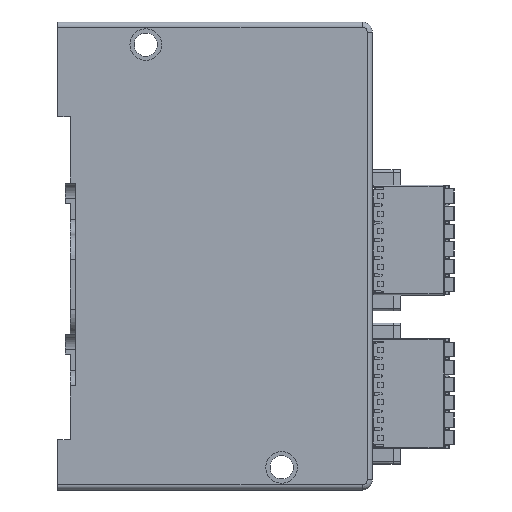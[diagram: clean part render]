
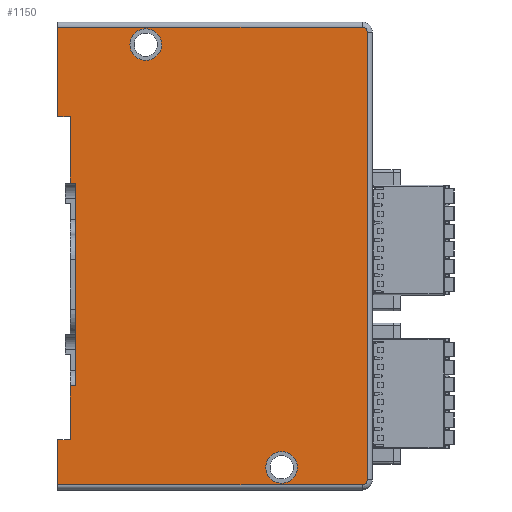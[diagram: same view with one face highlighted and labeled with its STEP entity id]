
A CAD part, left-side view. The second image highlights one B-rep face of the part: STEP entity #1150.
In plain terms, the highlighted planar face has unit normal (-1, 0, 0).
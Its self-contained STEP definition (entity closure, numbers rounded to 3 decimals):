
#1150=ADVANCED_FACE('',(#12738,#12739,#12740),#12737,.T.);
#12737=PLANE('',#24087);
#12738=FACE_OUTER_BOUND('',#24088,.T.);
#12739=FACE_BOUND('',#24089,.T.);
#12740=FACE_BOUND('',#24090,.T.);
#24084=CARTESIAN_POINT('',(0.,-73.25,-38.9));
#24085=DIRECTION('',(-1.,0.,0.));
#24086=DIRECTION('',(0.,0.,1.));
#24087=AXIS2_PLACEMENT_3D('',#24084,#24085,#24086);
#24088=EDGE_LOOP('',(#33403,#33404,#33405,#33406,#33407,#33408,#33409,#33410,#33411,#33412,#33413,#33414,#33415,#33416));
#24089=EDGE_LOOP('',(#33417,#33418));
#24090=EDGE_LOOP('',(#33419,#33420));
#33403=ORIENTED_EDGE('',*,*,#39543,.F.);
#33404=ORIENTED_EDGE('',*,*,#39461,.F.);
#33405=ORIENTED_EDGE('',*,*,#39463,.F.);
#33406=ORIENTED_EDGE('',*,*,#39416,.T.);
#33407=ORIENTED_EDGE('',*,*,#39557,.F.);
#33408=ORIENTED_EDGE('',*,*,#39558,.F.);
#33409=ORIENTED_EDGE('',*,*,#39562,.F.);
#33410=ORIENTED_EDGE('',*,*,#39568,.T.);
#33411=ORIENTED_EDGE('',*,*,#39569,.T.);
#33412=ORIENTED_EDGE('',*,*,#39570,.T.);
#33413=ORIENTED_EDGE('',*,*,#39571,.T.);
#33414=ORIENTED_EDGE('',*,*,#39572,.T.);
#33415=ORIENTED_EDGE('',*,*,#39537,.F.);
#33416=ORIENTED_EDGE('',*,*,#39541,.F.);
#33417=ORIENTED_EDGE('',*,*,#39573,.F.);
#33418=ORIENTED_EDGE('',*,*,#39574,.F.);
#33419=ORIENTED_EDGE('',*,*,#39575,.F.);
#33420=ORIENTED_EDGE('',*,*,#39576,.F.);
#39416=EDGE_CURVE('',#60885,#60886,#60887,.T.);
#39461=EDGE_CURVE('',#61182,#61189,#61190,.T.);
#39463=EDGE_CURVE('',#60885,#61182,#61202,.T.);
#39537=EDGE_CURVE('',#61700,#61701,#61702,.T.);
#39541=EDGE_CURVE('',#61726,#61700,#61727,.T.);
#39543=EDGE_CURVE('',#61189,#61726,#61739,.T.);
#39557=EDGE_CURVE('',#61821,#60886,#61828,.T.);
#39558=EDGE_CURVE('',#61834,#61821,#61835,.T.);
#39562=EDGE_CURVE('',#61855,#61834,#61862,.T.);
#39568=EDGE_CURVE('',#61855,#61898,#61899,.T.);
#39569=EDGE_CURVE('',#61898,#61905,#61906,.T.);
#39570=EDGE_CURVE('',#61905,#61912,#61913,.T.);
#39571=EDGE_CURVE('',#61912,#61919,#61920,.T.);
#39572=EDGE_CURVE('',#61919,#61701,#61926,.T.);
#39573=EDGE_CURVE('',#61932,#61933,#61934,.T.);
#39574=EDGE_CURVE('',#61933,#61932,#61940,.T.);
#39575=EDGE_CURVE('',#61946,#61947,#61948,.T.);
#39576=EDGE_CURVE('',#61947,#61946,#61954,.T.);
#60885=VERTEX_POINT('',#80132);
#60886=VERTEX_POINT('',#80133);
#60887=LINE('',#80134,#80135);
#61182=VERTEX_POINT('',#80310);
#61189=VERTEX_POINT('',#80314);
#61190=LINE('',#80315,#80316);
#61202=LINE('',#80321,#80322);
#61700=VERTEX_POINT('',#80605);
#61701=VERTEX_POINT('',#80606);
#61702=LINE('',#80607,#80608);
#61726=VERTEX_POINT('',#80621);
#61727=LINE('',#80622,#80623);
#61739=LINE('',#80628,#80629);
#61821=VERTEX_POINT('',#80675);
#61828=LINE('',#80679,#80680);
#61834=VERTEX_POINT('',#80682);
#61835=LINE('',#80683,#80684);
#61855=VERTEX_POINT('',#80694);
#61862=LINE('',#80699,#80700);
#61898=VERTEX_POINT('',#80718);
#61899=LINE('',#80719,#80720);
#61905=VERTEX_POINT('',#80722);
#61906=CIRCLE('',#80726,1.);
#61912=VERTEX_POINT('',#80727);
#61913=LINE('',#80728,#80729);
#61919=VERTEX_POINT('',#80731);
#61920=CIRCLE('',#80735,1.);
#61926=LINE('',#80736,#80737);
#61932=VERTEX_POINT('',#80739);
#61933=VERTEX_POINT('',#80740);
#61934=CIRCLE('',#80744,3.15);
#61940=CIRCLE('',#80748,3.15);
#61946=VERTEX_POINT('',#80749);
#61947=VERTEX_POINT('',#80750);
#61948=CIRCLE('',#80754,3.15);
#61954=CIRCLE('',#80758,3.15);
#80132=CARTESIAN_POINT('',(0.,-9.1,-10.1));
#80133=CARTESIAN_POINT('',(0.,-8.1,-10.1));
#80134=CARTESIAN_POINT('',(0.,-9.1,-10.1));
#80135=VECTOR('',#80136,1.);
#80136=DIRECTION('',(0.,1.,0.));
#80310=CARTESIAN_POINT('',(0.,-9.1,30.2));
#80314=CARTESIAN_POINT('',(0.,-8.1,30.2));
#80315=CARTESIAN_POINT('',(0.,-9.1,30.2));
#80316=VECTOR('',#80317,1.);
#80317=DIRECTION('',(0.,1.,0.));
#80321=CARTESIAN_POINT('',(0.,-9.1,-10.1));
#80322=VECTOR('',#80323,40.3);
#80323=DIRECTION('',(0.,0.,1.));
#80605=CARTESIAN_POINT('',(0.,-5.6,43.4));
#80606=CARTESIAN_POINT('',(0.,-5.6,61.2));
#80607=CARTESIAN_POINT('',(0.,-5.6,43.4));
#80608=VECTOR('',#80609,17.8);
#80609=DIRECTION('',(0.,0.,1.));
#80621=CARTESIAN_POINT('',(0.,-8.1,43.4));
#80622=CARTESIAN_POINT('',(0.,-8.1,43.4));
#80623=VECTOR('',#80624,2.5);
#80624=DIRECTION('',(0.,1.,0.));
#80628=CARTESIAN_POINT('',(0.,-8.1,30.2));
#80629=VECTOR('',#80630,13.2);
#80630=DIRECTION('',(0.,0.,1.));
#80675=CARTESIAN_POINT('',(0.,-8.1,-20.8));
#80679=CARTESIAN_POINT('',(0.,-8.1,-20.8));
#80680=VECTOR('',#80681,10.7);
#80681=DIRECTION('',(0.,0.,1.));
#80682=CARTESIAN_POINT('',(0.,-5.6,-20.8));
#80683=CARTESIAN_POINT('',(0.,-5.6,-20.8));
#80684=VECTOR('',#80685,2.5);
#80685=DIRECTION('',(0.,-1.,0.));
#80694=CARTESIAN_POINT('',(0.,-5.6,-29.8));
#80699=CARTESIAN_POINT('',(0.,-5.6,-29.8));
#80700=VECTOR('',#80701,9.);
#80701=DIRECTION('',(0.,0.,1.));
#80718=CARTESIAN_POINT('',(0.,-66.1,-29.8));
#80719=CARTESIAN_POINT('',(0.,-5.6,-29.8));
#80720=VECTOR('',#80721,60.5);
#80721=DIRECTION('',(0.,-1.,0.));
#80722=CARTESIAN_POINT('',(0.,-67.1,-28.8));
#80723=CARTESIAN_POINT('',(0.,-66.1,-28.8));
#80724=DIRECTION('',(-1.,0.,0.));
#80725=DIRECTION('',(0.,0.,-1.));
#80726=AXIS2_PLACEMENT_3D('',#80723,#80724,#80725);
#80727=CARTESIAN_POINT('',(0.,-67.1,60.2));
#80728=CARTESIAN_POINT('',(0.,-67.1,-28.8));
#80729=VECTOR('',#80730,89.);
#80730=DIRECTION('',(0.,0.,1.));
#80731=CARTESIAN_POINT('',(0.,-66.1,61.2));
#80732=CARTESIAN_POINT('',(0.,-66.1,60.2));
#80733=DIRECTION('',(-1.,0.,0.));
#80734=DIRECTION('',(0.,0.,-1.));
#80735=AXIS2_PLACEMENT_3D('',#80732,#80733,#80734);
#80736=CARTESIAN_POINT('',(0.,-66.1,61.2));
#80737=VECTOR('',#80738,60.5);
#80738=DIRECTION('',(0.,1.,0.));
#80739=CARTESIAN_POINT('',(0.,-50.1,-23.15));
#80740=CARTESIAN_POINT('',(0.,-50.1,-29.45));
#80741=CARTESIAN_POINT('',(0.,-50.1,-26.3));
#80742=DIRECTION('',(-1.,0.,0.));
#80743=DIRECTION('',(0.,0.,-1.));
#80744=AXIS2_PLACEMENT_3D('',#80741,#80742,#80743);
#80745=CARTESIAN_POINT('',(0.,-50.1,-26.3));
#80746=DIRECTION('',(-1.,0.,0.));
#80747=DIRECTION('',(0.,0.,-1.));
#80748=AXIS2_PLACEMENT_3D('',#80745,#80746,#80747);
#80749=CARTESIAN_POINT('',(0.,-23.1,60.85));
#80750=CARTESIAN_POINT('',(0.,-23.1,54.55));
#80751=CARTESIAN_POINT('',(0.,-23.1,57.7));
#80752=DIRECTION('',(-1.,0.,0.));
#80753=DIRECTION('',(0.,0.,-1.));
#80754=AXIS2_PLACEMENT_3D('',#80751,#80752,#80753);
#80755=CARTESIAN_POINT('',(0.,-23.1,57.7));
#80756=DIRECTION('',(-1.,0.,0.));
#80757=DIRECTION('',(0.,0.,-1.));
#80758=AXIS2_PLACEMENT_3D('',#80755,#80756,#80757);
